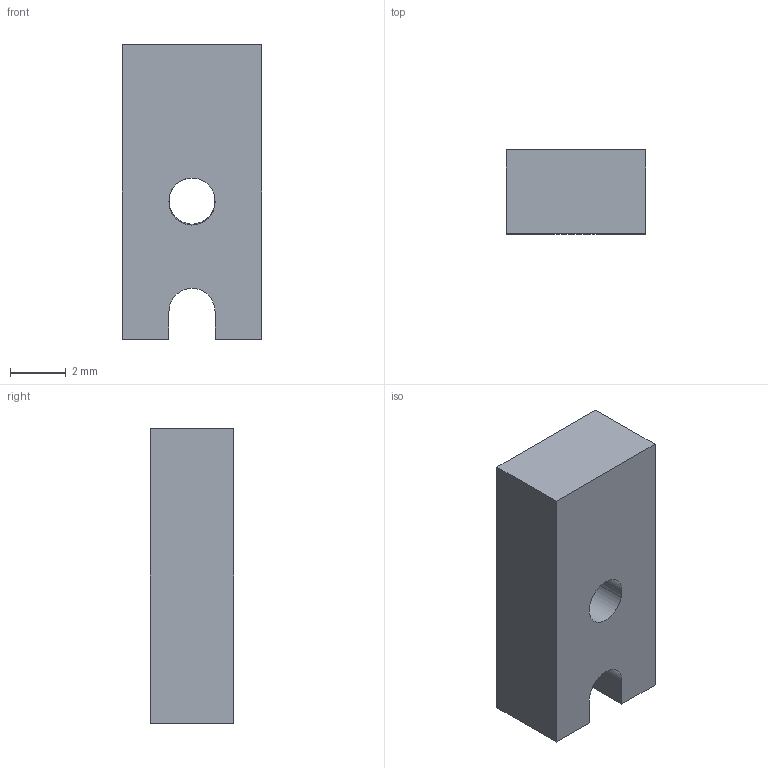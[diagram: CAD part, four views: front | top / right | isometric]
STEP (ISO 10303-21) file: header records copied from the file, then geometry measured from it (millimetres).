
FILE_DESCRIPTION(('Open CASCADE Model'),'2;1');
FILE_NAME('Open CASCADE Shape Model','2026-09-15T14:26:48',('Author'),( 'Open CASCADE'),'Open CASCADE STEP processor 7.7','Open CASCADE 7.7' ,'Unknown');
FILE_SCHEMA(('AUTOMOTIVE_DESIGN { 1 0 10303 214 1 1 1 1 }'));
Length unit declared in the file: millimetre
Products named in the file (1): ADD_P01_J9_PTT_WIRE_SUPPORT
Bounding box: 5 x 3 x 10.55 mm (x, y, z)
Volume: 143.6 mm3; surface area: 213.5 mm2
Topology: 1 solids, 1 shells, 18 faces, 47 edges, 31 vertices
Faces by surface type: plane 9, cylinder 9
Entity records: 1296 total; most frequent: CARTESIAN_POINT 342, DIRECTION 178, ORIENTED_EDGE 94, PCURVE 94, DEFINITIONAL_REPRESENTATION 94, LINE 86, VECTOR 86, EDGE_CURVE 47
